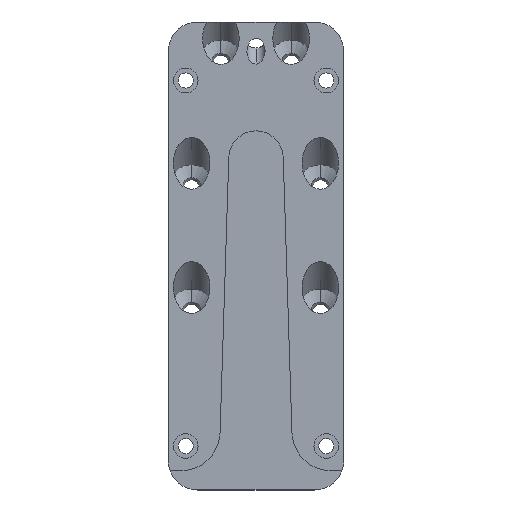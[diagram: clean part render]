
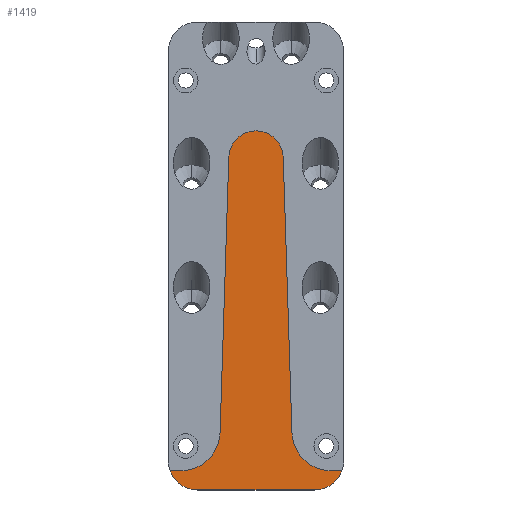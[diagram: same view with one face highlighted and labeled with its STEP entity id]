
A CAD part, top view. The second image highlights one B-rep face of the part: STEP entity #1419.
In plain terms, the highlighted planar face has unit normal (0, 0, 1).
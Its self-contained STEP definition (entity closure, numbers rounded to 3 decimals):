
#9 = VECTOR ( 'NONE', #2026, 1000. ) ;
#45 = CARTESIAN_POINT ( 'NONE',  ( -25.745, -10., 4. ) ) ;
#81 = VERTEX_POINT ( 'NONE', #935 ) ;
#125 = VERTEX_POINT ( 'NONE', #2535 ) ;
#184 = LINE ( 'NONE', #2016, #1386 ) ;
#188 = VECTOR ( 'NONE', #1295, 1000. ) ;
#261 = ORIENTED_EDGE ( 'NONE', *, *, #1451, .F. ) ;
#267 = VECTOR ( 'NONE', #2243, 1000. ) ;
#316 = AXIS2_PLACEMENT_3D ( 'NONE', #456, #602, #1011 ) ;
#440 = EDGE_CURVE ( 'NONE', #2108, #1461, #1642, .T. ) ;
#441 = ORIENTED_EDGE ( 'NONE', *, *, #1723, .F. ) ;
#456 = CARTESIAN_POINT ( 'NONE',  ( -25.745, 0., 4. ) ) ;
#483 = LINE ( 'NONE', #1438, #9 ) ;
#513 = CIRCLE ( 'NONE', #1893, 10. ) ;
#577 = VECTOR ( 'NONE', #846, 1000. ) ;
#597 = CARTESIAN_POINT ( 'NONE',  ( 20., -10., 4. ) ) ;
#602 = DIRECTION ( 'NONE',  ( 0., 0., 1. ) ) ;
#638 = CARTESIAN_POINT ( 'NONE',  ( -25.745, -10., 4. ) ) ;
#701 = PLANE ( 'NONE',  #726 ) ;
#706 = ORIENTED_EDGE ( 'NONE', *, *, #2350, .T. ) ;
#726 = AXIS2_PLACEMENT_3D ( 'NONE', #2507, #1306, #2297 ) ;
#791 = CARTESIAN_POINT ( 'NONE',  ( 0., 93.471, 4. ) ) ;
#811 = LINE ( 'NONE', #2054, #267 ) ;
#846 = DIRECTION ( 'NONE',  ( -1., 0., 0. ) ) ;
#886 = CARTESIAN_POINT ( 'NONE',  ( -20., -20., 4. ) ) ;
#935 = CARTESIAN_POINT ( 'NONE',  ( 30., -10., 4. ) ) ;
#1011 = DIRECTION ( 'NONE',  ( 1., 0., 0. ) ) ;
#1021 = AXIS2_PLACEMENT_3D ( 'NONE', #791, #1590, #1599 ) ;
#1065 = VERTEX_POINT ( 'NONE', #45 ) ;
#1081 = CIRCLE ( 'NONE', #316, 10. ) ;
#1112 = AXIS2_PLACEMENT_3D ( 'NONE', #1140, #2316, #2325 ) ;
#1121 = CARTESIAN_POINT ( 'NONE',  ( 25.745, -10., 4. ) ) ;
#1140 = CARTESIAN_POINT ( 'NONE',  ( -20., -10., 4. ) ) ;
#1203 = DIRECTION ( 'NONE',  ( 0., 0., 1. ) ) ;
#1219 = AXIS2_PLACEMENT_3D ( 'NONE', #1679, #2452, #1852 ) ;
#1295 = DIRECTION ( 'NONE',  ( 0.032, 1., 0. ) ) ;
#1301 = VERTEX_POINT ( 'NONE', #2465 ) ;
#1306 = DIRECTION ( 'NONE',  ( 0., 0., -1. ) ) ;
#1315 = CARTESIAN_POINT ( 'NONE',  ( -15.75, -0.316, 4. ) ) ;
#1386 = VECTOR ( 'NONE', #2406, 1000. ) ;
#1392 = LINE ( 'NONE', #1315, #188 ) ;
#1419 = ADVANCED_FACE ( 'NONE', ( #2059 ), #701, .F. ) ;
#1438 = CARTESIAN_POINT ( 'NONE',  ( 12.773, 93.875, 4. ) ) ;
#1451 = EDGE_CURVE ( 'NONE', #125, #2108, #1392, .T. ) ;
#1461 = VERTEX_POINT ( 'NONE', #2273 ) ;
#1551 = ORIENTED_EDGE ( 'NONE', *, *, #2483, .T. ) ;
#1590 = DIRECTION ( 'NONE',  ( 0., 0., -1. ) ) ;
#1599 = DIRECTION ( 'NONE',  ( -1., 0., 0. ) ) ;
#1642 = CIRCLE ( 'NONE', #1021, 12.779 ) ;
#1647 = EDGE_CURVE ( 'NONE', #1461, #2562, #483, .T. ) ;
#1679 = CARTESIAN_POINT ( 'NONE',  ( 25.745, 0., 4. ) ) ;
#1687 = ORIENTED_EDGE ( 'NONE', *, *, #2586, .T. ) ;
#1723 = EDGE_CURVE ( 'NONE', #1065, #125, #1081, .T. ) ;
#1725 = ORIENTED_EDGE ( 'NONE', *, *, #440, .F. ) ;
#1732 = VERTEX_POINT ( 'NONE', #2410 ) ;
#1747 = CARTESIAN_POINT ( 'NONE',  ( 15.75, -0.316, 4. ) ) ;
#1852 = DIRECTION ( 'NONE',  ( 1., 0., 0. ) ) ;
#1893 = AXIS2_PLACEMENT_3D ( 'NONE', #597, #1203, #2007 ) ;
#1970 = CIRCLE ( 'NONE', #1219, 10. ) ;
#1976 = VERTEX_POINT ( 'NONE', #1121 ) ;
#2007 = DIRECTION ( 'NONE',  ( -1., 0., 0. ) ) ;
#2016 = CARTESIAN_POINT ( 'NONE',  ( 25.745, -10., 4. ) ) ;
#2019 = ORIENTED_EDGE ( 'NONE', *, *, #1647, .F. ) ;
#2026 = DIRECTION ( 'NONE',  ( 0.032, -1., 0. ) ) ;
#2049 = ORIENTED_EDGE ( 'NONE', *, *, #2169, .F. ) ;
#2054 = CARTESIAN_POINT ( 'NONE',  ( 0., -20., 4. ) ) ;
#2059 = FACE_OUTER_BOUND ( 'NONE', #2585, .T. ) ;
#2108 = VERTEX_POINT ( 'NONE', #2217 ) ;
#2135 = ORIENTED_EDGE ( 'NONE', *, *, #2285, .T. ) ;
#2145 = LINE ( 'NONE', #638, #577 ) ;
#2169 = EDGE_CURVE ( 'NONE', #1976, #81, #184, .T. ) ;
#2217 = CARTESIAN_POINT ( 'NONE',  ( -12.773, 93.875, 4. ) ) ;
#2243 = DIRECTION ( 'NONE',  ( 1., 0., 0. ) ) ;
#2267 = EDGE_CURVE ( 'NONE', #2562, #1976, #1970, .T. ) ;
#2273 = CARTESIAN_POINT ( 'NONE',  ( 12.773, 93.875, 4. ) ) ;
#2285 = EDGE_CURVE ( 'NONE', #1065, #1732, #2145, .T. ) ;
#2297 = DIRECTION ( 'NONE',  ( -1., 0., 0. ) ) ;
#2316 = DIRECTION ( 'NONE',  ( 0., 0., 1. ) ) ;
#2325 = DIRECTION ( 'NONE',  ( -1., 0., 0. ) ) ;
#2350 = EDGE_CURVE ( 'NONE', #2464, #1301, #811, .T. ) ;
#2406 = DIRECTION ( 'NONE',  ( 1., 0., 0. ) ) ;
#2410 = CARTESIAN_POINT ( 'NONE',  ( -30., -10., 4. ) ) ;
#2452 = DIRECTION ( 'NONE',  ( 0., 0., 1. ) ) ;
#2464 = VERTEX_POINT ( 'NONE', #886 ) ;
#2465 = CARTESIAN_POINT ( 'NONE',  ( 20., -20., 4. ) ) ;
#2483 = EDGE_CURVE ( 'NONE', #1732, #2464, #2518, .T. ) ;
#2507 = CARTESIAN_POINT ( 'NONE',  ( -25.745, -22., 4. ) ) ;
#2517 = ORIENTED_EDGE ( 'NONE', *, *, #2267, .F. ) ;
#2518 = CIRCLE ( 'NONE', #1112, 10. ) ;
#2535 = CARTESIAN_POINT ( 'NONE',  ( -15.75, -0.316, 4. ) ) ;
#2562 = VERTEX_POINT ( 'NONE', #1747 ) ;
#2585 = EDGE_LOOP ( 'NONE', ( #706, #1687, #2049, #2517, #2019, #1725, #261, #441, #2135, #1551 ) ) ;
#2586 = EDGE_CURVE ( 'NONE', #1301, #81, #513, .T. ) ;
